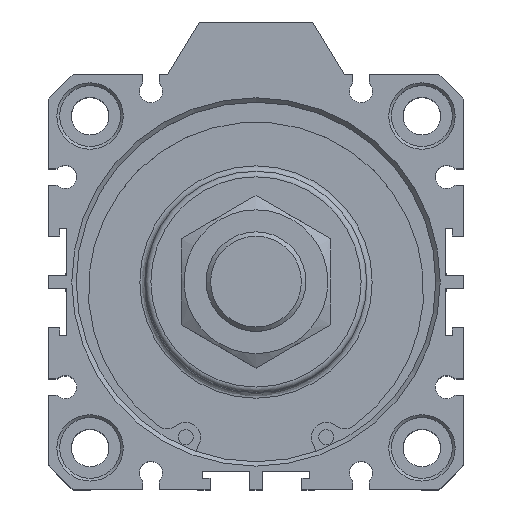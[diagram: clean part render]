
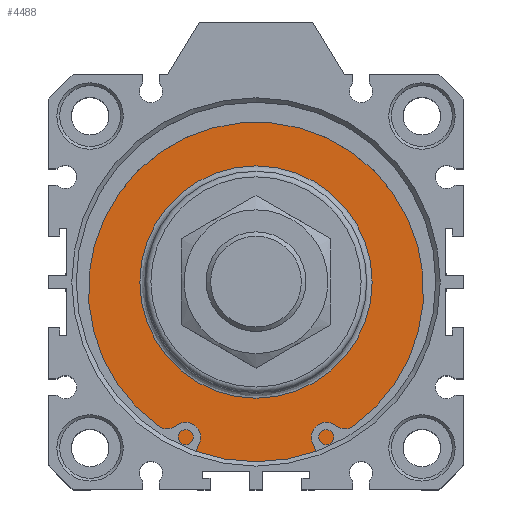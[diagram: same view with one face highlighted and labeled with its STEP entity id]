
A CAD part, top view. The second image highlights one B-rep face of the part: STEP entity #4488.
In plain terms, the highlighted planar face has unit normal (0, 0, 1).
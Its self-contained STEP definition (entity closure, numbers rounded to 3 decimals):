
#4437=CARTESIAN_POINT('',(2.99,22.555,57.3));
#4438=VERTEX_POINT('',#4437);
#4439=CARTESIAN_POINT('',(2.99,1.555,57.3));
#4440=DIRECTION('',(0.0,0.0,1.0));
#4441=DIRECTION('',(0.0,-1.0,0.0));
#4442=AXIS2_PLACEMENT_3D('',#4439,#4440,#4441);
#4443=CIRCLE('',#4442,21.0);
#4444=EDGE_CURVE('',#4438,#4438,#4443,.T.);
#4469=CARTESIAN_POINT('',(2.99,27.805,57.3));
#4470=DIRECTION('',(0.0,0.0,1.0));
#4471=DIRECTION('',(1.0,0.0,0.0));
#4472=AXIS2_PLACEMENT_3D('',#4469,#4470,#4471);
#4473=PLANE('',#4472);
#4474=CARTESIAN_POINT('',(2.99,34.055,57.3));
#4475=VERTEX_POINT('',#4474);
#4476=CARTESIAN_POINT('',(2.99,1.555,57.3));
#4477=DIRECTION('',(0.0,0.0,-1.0));
#4478=DIRECTION('',(0.0,1.0,0.0));
#4479=AXIS2_PLACEMENT_3D('',#4476,#4477,#4478);
#4480=CIRCLE('',#4479,32.5);
#4481=EDGE_CURVE('',#4475,#4475,#4480,.T.);
#4482=ORIENTED_EDGE('',*,*,#4481,.F.);
#4483=EDGE_LOOP('',(#4482));
#4484=FACE_OUTER_BOUND('',#4483,.T.);
#4485=ORIENTED_EDGE('',*,*,#4444,.F.);
#4486=EDGE_LOOP('',(#4485));
#4487=FACE_BOUND('',#4486,.T.);
#4488=ADVANCED_FACE('',(#4484,#4487),#4473,.T.);
